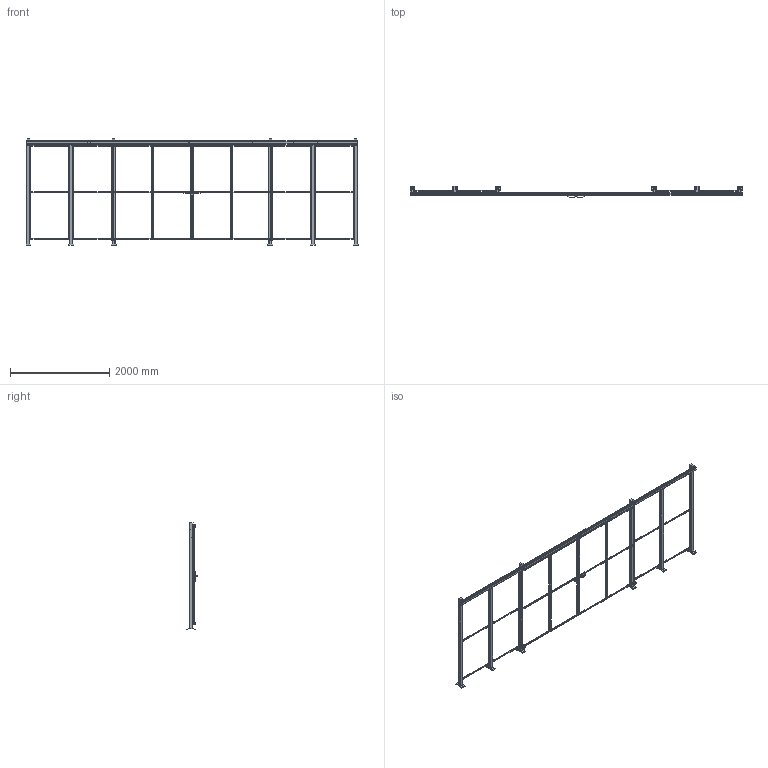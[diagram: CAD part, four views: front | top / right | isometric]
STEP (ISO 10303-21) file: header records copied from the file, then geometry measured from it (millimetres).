
FILE_DESCRIPTION(/* description */ (''),/* implementation_level */ '2;1');
FILE_NAME(/* name */ 'C:\SafeGuarding\ELABORATI\HOR§VED_2025-03-27-09-50-45.stp',/* time_stamp */ '2025-03-27T09:50:48+01:00',/* author */ ('admin'),/* organization */ (''),/* preprocessor_version */ 'ST-DEVELOPER v18.1',/* originating_system */ 'AutoCAD Mechanical',/* authorisation */ '');
FILE_SCHEMA (('AUTOMOTIVE_DESIGN { 1 0 10303 214 3 1 1 }'));
Length unit declared in the file: millimetre
Products named in the file (4): Product; P_VFMA.V260SDU.2020; R_VFPA.REPE20.08001900; P_VFMA.V360SDU.2020
Assembly tree (14 placements, depth 2):
  Product
    R_VFPA.REPE20.08001900  x8
    P_VFMA.V260SDU.2020  x2
    P_VFMA.V360SDU.2020  x4
Bounding box: 6700 x 235.91 x 2154 mm (x, y, z)
Volume: 76806310.1 mm3; surface area: 10785659 mm2
Topology: 83 solids, 105 shells, 840 faces, 2833 edges, 3086 vertices
Faces by surface type: plane 778, cylinder 62
Full cylindrical faces by diameter (mm): 11 x24, 12 x4, 14 x4, 15 x8, 40 x8
Entity records: 17911 total; most frequent: CARTESIAN_POINT 3762, DIRECTION 2690, ORIENTED_EDGE 2684, EDGE_CURVE 1440, LINE 1258, VECTOR 1258, VERTEX_POINT 1044, AXIS2_PLACEMENT_3D 716
